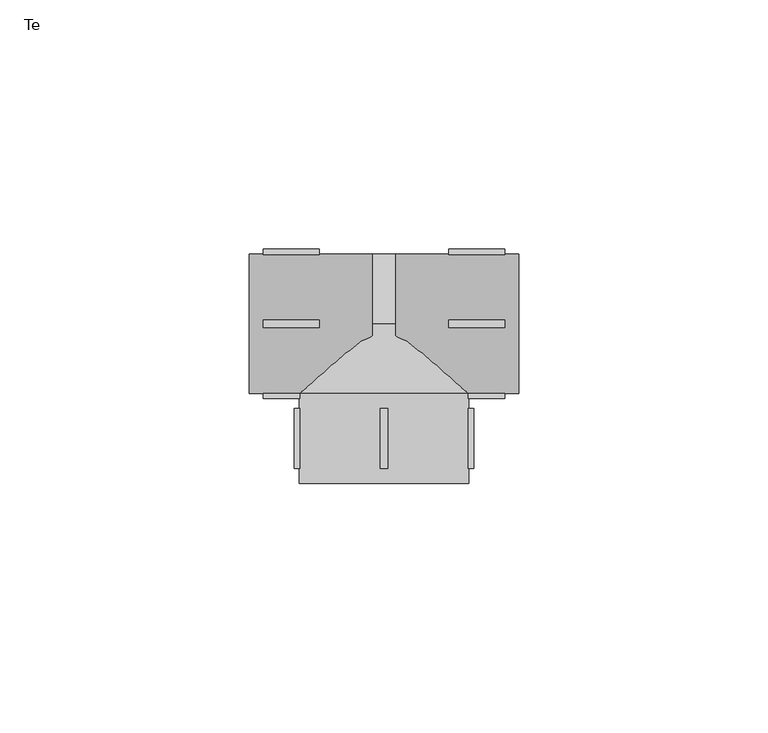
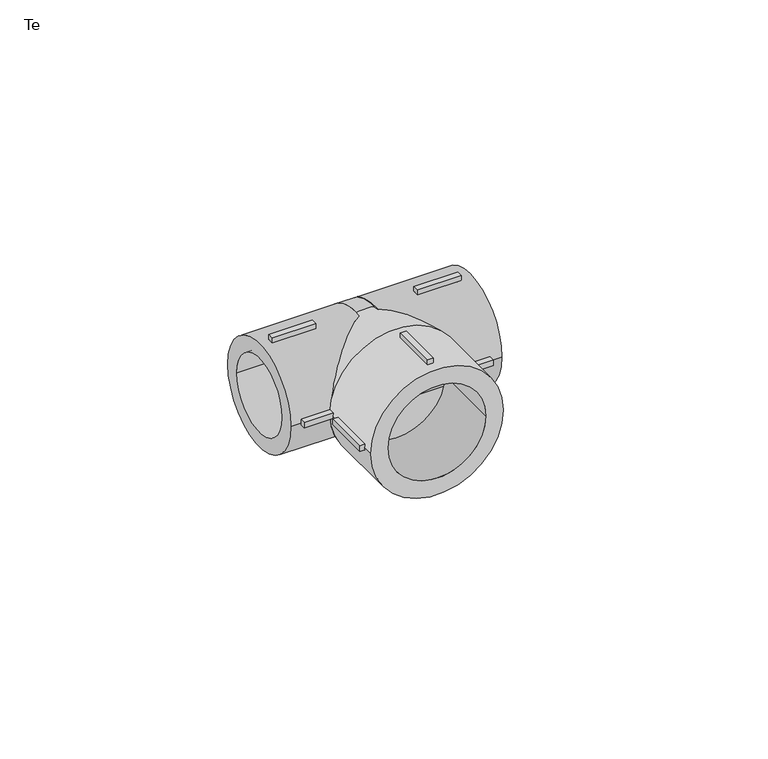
"""IFC4 building model written with IfcOpenShell, lengths in millimetres: pipe fitting geometry, EGB_VASEN_ PPR_Te WXR300_Te reducida WXR310 : Te."""

from ifc_helpers import new_model, si_unit, point, frame, origin, origin_2d, place, context, project, spatial, polyline, circle_curve, trimmed, segment, composite_curve, outline, extrude, source, transform, mapped, element, save
from ifc_brep_helpers import plane_surface, revolved_surface, advanced_brep


def te_7f70146f(model_context):
    return source(origin(), model_context, "Body", "SolidModel", [
        extrude(outline(polyline([(-0.75, -17.0), (0.75, -17.0), (0.75, -29.0), (-0.75, -29.0), (-0.75, -17.0)])), frame((0.0, 0.0, 16.0), z_axis=(0.0, 0.0, 1.0), x_axis=(1.0, 0.0, 0.0)), (0.0, 0.0, 1.0), 2.0),
        extrude(outline(polyline([(-0.75, -17.0), (0.75, -17.0), (0.75, -29.0), (-0.75, -29.0), (-0.75, -17.0)])), frame((0.0, 0.0, -18.0), z_axis=(0.0, 0.0, 1.0), x_axis=(1.0, 0.0, 0.0)), (0.0, 0.0, 1.0), 2.0),
        extrude(outline(polyline([(16.0, -17.0), (18.0, -17.0), (18.0, -29.0), (16.0, -29.0), (16.0, -17.0)])), frame((0.0, 0.0, -0.75), z_axis=(0.0, 0.0, 1.0), x_axis=(1.0, 0.0, 0.0)), (0.0, 0.0, 1.0), 1.5),
        extrude(outline(polyline([(-18.0, -17.0), (-16.0, -17.0), (-16.0, -29.0), (-18.0, -29.0), (-18.0, -17.0)])), frame((0.0, 0.0, -0.75), z_axis=(0.0, 0.0, 1.0), x_axis=(1.0, 0.0, 0.0)), (0.0, 0.0, 1.0), 1.5),
        extrude(outline(polyline([(13.0, -0.75), (13.0, 0.75), (24.2, 0.75), (24.2, -0.75), (13.0, -0.75)])), frame((0.0, 0.0, 13.0), z_axis=(0.0, 0.0, 1.0), x_axis=(1.0, 0.0, 0.0)), (0.0, 0.0, 1.0), 2.0),
        extrude(outline(polyline([(13.0, -0.75), (13.0, 0.75), (24.2, 0.75), (24.2, -0.75), (13.0, -0.75)])), frame((0.0, 0.0, -15.0), z_axis=(0.0, 0.0, 1.0), x_axis=(1.0, 0.0, 0.0)), (0.0, 0.0, 1.0), 2.0),
        extrude(outline(polyline([(13.0, 13.0), (13.0, 15.0), (24.2, 15.0), (24.2, 13.0), (13.0, 13.0)])), frame((0.0, 0.0, -0.75), z_axis=(0.0, 0.0, 1.0), x_axis=(1.0, 0.0, 0.0)), (0.0, 0.0, 1.0), 1.5),
        extrude(outline(polyline([(13.0, -15.0), (13.0, -13.0), (24.2, -13.0), (24.2, -15.0), (13.0, -15.0)])), frame((0.0, 0.0, -0.75), z_axis=(0.0, 0.0, 1.0), x_axis=(1.0, 0.0, 0.0)), (0.0, 0.0, 1.0), 1.5),
        extrude(outline(polyline([(-13.0, 0.75), (-13.0, -0.75), (-24.2, -0.75), (-24.2, 0.75), (-13.0, 0.75)])), frame((0.0, 0.0, 13.0), z_axis=(0.0, 0.0, 1.0), x_axis=(1.0, 0.0, 0.0)), (0.0, 0.0, 1.0), 2.0),
        extrude(outline(polyline([(-13.0, 0.75), (-13.0, -0.75), (-24.2, -0.75), (-24.2, 0.75), (-13.0, 0.75)])), frame((0.0, 0.0, -15.0), z_axis=(0.0, 0.0, 1.0), x_axis=(1.0, 0.0, 0.0)), (0.0, 0.0, 1.0), 2.0),
        extrude(outline(polyline([(-13.0, 15.0), (-13.0, 13.0), (-24.2, 13.0), (-24.2, 15.0), (-13.0, 15.0)])), frame((0.0, 0.0, -0.75), z_axis=(0.0, 0.0, 1.0), x_axis=(1.0, 0.0, 0.0)), (0.0, 0.0, 1.0), 1.5),
        extrude(outline(polyline([(-13.0, -13.0), (-13.0, -15.0), (-24.2, -15.0), (-24.2, -13.0), (-13.0, -13.0)])), frame((0.0, 0.0, -0.75), z_axis=(0.0, 0.0, 1.0), x_axis=(1.0, 0.0, 0.0)), (0.0, 0.0, 1.0), 1.5),
        extrude(outline(composite_curve([segment(trimmed(circle_curve(origin_2d(), 17.0), [point((0.0, 17.0))], [point((0.0, -17.0))], False, "CARTESIAN"), True, "CONTINUOUS"), segment(trimmed(circle_curve(origin_2d(), 17.0), [point((0.0, -17.0))], [point((0.0, 17.0))], False, "CARTESIAN"), True, "CONTINUOUS")], self_intersect=False), holes=[composite_curve([segment(trimmed(circle_curve(origin_2d(), 12.5), [point((0.0, 12.5))], [point((0.0, -12.5))], True, "CARTESIAN"), True, "CONTINUOUS"), segment(trimmed(circle_curve(origin_2d(), 12.5), [point((0.0, -12.5))], [point((0.0, 12.5))], True, "CARTESIAN"), True, "CONTINUOUS")], self_intersect=False)]), frame((0.0, -32.0, 0.0), z_axis=(0.0, 1.0, 0.0), x_axis=(0.0, 0.0, 1.0)), (0.0, 0.0, 1.0), 18.0),
        extrude(outline(composite_curve([segment(trimmed(circle_curve(origin_2d(), 14.0), [point((-14.0, 0.0))], [point((14.0, 0.0))], False, "CARTESIAN"), True, "CONTINUOUS"), segment(trimmed(circle_curve(origin_2d(), 14.0), [point((14.0, 0.0))], [point((-14.0, 0.0))], False, "CARTESIAN"), True, "CONTINUOUS")], self_intersect=False), holes=[composite_curve([segment(trimmed(circle_curve(origin_2d(), 10.0), [point((-10.0, 0.0))], [point((10.0, 0.0))], True, "CARTESIAN"), True, "CONTINUOUS"), segment(trimmed(circle_curve(origin_2d(), 10.0), [point((10.0, 0.0))], [point((-10.0, 0.0))], True, "CARTESIAN"), True, "CONTINUOUS")], self_intersect=False)]), frame((2.4, 0.0, 0.0), z_axis=(1.0, 0.0, 0.0), x_axis=(0.0, 1.0, 0.0)), (0.0, 0.0, 1.0), 24.6),
        extrude(outline(composite_curve([segment(trimmed(circle_curve(origin_2d(), 14.0), [point((-14.0, 0.0))], [point((14.0, 0.0))], False, "CARTESIAN"), True, "CONTINUOUS"), segment(trimmed(circle_curve(origin_2d(), 14.0), [point((14.0, 0.0))], [point((-14.0, 0.0))], False, "CARTESIAN"), True, "CONTINUOUS")], self_intersect=False), holes=[composite_curve([segment(trimmed(circle_curve(origin_2d(), 10.0), [point((-10.0, 0.0))], [point((10.0, 0.0))], True, "CARTESIAN"), True, "CONTINUOUS"), segment(trimmed(circle_curve(origin_2d(), 10.0), [point((10.0, 0.0))], [point((-10.0, 0.0))], True, "CARTESIAN"), True, "CONTINUOUS")], self_intersect=False)]), frame((-27.0, 0.0, 0.0), z_axis=(1.0, 0.0, 0.0), x_axis=(0.0, 1.0, 0.0)), (0.0, 0.0, 1.0), 24.6),
        advanced_brep(
        [(14.0, 0.0, 0.0), (-14.0, 0.0, 0.0), (17.0, -14.0, 0.0), (-17.0, -14.0, 0.0)],
        [
            (0, 1, circle_curve(frame((0.0, 0.0, 0.0), z_axis=(0.0, 1.0, 0.0), x_axis=(1.0, 0.0, 0.0)), 14.0)),
            (1, 0, circle_curve(frame((0.0, 0.0, 0.0), z_axis=(0.0, 1.0, 0.0), x_axis=(-1.0, 0.0, 0.0)), 14.0)),
            (2, 3, circle_curve(frame((0.0, -14.0, 0.0), z_axis=(0.0, -1.0, 0.0), x_axis=(-1.0, 0.0, 0.0)), 17.0)),
            (3, 2, circle_curve(frame((0.0, -14.0, 0.0), z_axis=(0.0, -1.0, 0.0), x_axis=(1.0, 0.0, 0.0)), 17.0)),
            (3, 1),
            (0, 2),
        ],
        [
            plane_surface(frame((0.0, 0.0, 0.0), z_axis=(0.0, 1.0, 0.0), x_axis=(0.0, 0.0, -1.0))),
            plane_surface(frame((0.0, -14.0, 0.0), z_axis=(0.0, -1.0, 0.0), x_axis=(0.0, 0.0, -1.0))),
            revolved_surface(polyline([(13.999999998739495, 0.0, 0.0), (17.0, -14.0, 0.0)]), (0.0, 65.3333333, 0.0), (0.0, -1.0, 0.0)),
            revolved_surface(polyline([(-13.999999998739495, 0.0, 0.0), (-17.0, -14.0, 0.0)]), (0.0, 65.3333333, 0.0), (0.0, -1.0, 0.0)),
        ],
        [
            (0, [[1, 2]]),
            (1, [[3, 4]]),
            (2, [[-4, 5, -1, 6]]),
            (3, [[-3, -6, -2, -5]]),
        ],
    ),
        extrude(outline(composite_curve([segment(trimmed(circle_curve(origin_2d(), 14.0), [point((-14.0, 0.0))], [point((14.0, 0.0))], False, "CARTESIAN"), True, "CONTINUOUS"), segment(trimmed(circle_curve(origin_2d(), 14.0), [point((14.0, 0.0))], [point((-14.0, 0.0))], False, "CARTESIAN"), True, "CONTINUOUS")], self_intersect=False)), frame((-2.4, 0.0, 0.0), z_axis=(1.0, 0.0, 0.0), x_axis=(0.0, 1.0, 0.0)), (0.0, 0.0, 1.0), 4.8),
    ])


if __name__ == "__main__":
    model = new_model("IFC4")
    model_context = context("Model", 3, world=origin())
    ifc_project = project(units=[si_unit("LENGTHUNIT", "METRE", prefix="MILLI")], contexts=[model_context])
    site = spatial("IfcSite", under=ifc_project)
    building = spatial("IfcBuilding", under=site)
    placement = place(None, origin())
    te_shape = te_7f70146f(model_context)
    element("IfcPipeFitting", 1, ObjectType="EGB_VASEN_ PPR_Te WXR300_Te reducida WXR310 : Te", at=placement, inside=building, context=model_context, shape_type="MappedRepresentation", body=[
        mapped(te_shape, transform((0.0, 0.0, 0.0), x_axis=(1.0, 0.0, 0.0), y_axis=(0.0, 1.0, 0.0), z_axis=(0.0, 0.0, 1.0))),
    ])
    save(model, "model.ifc")
